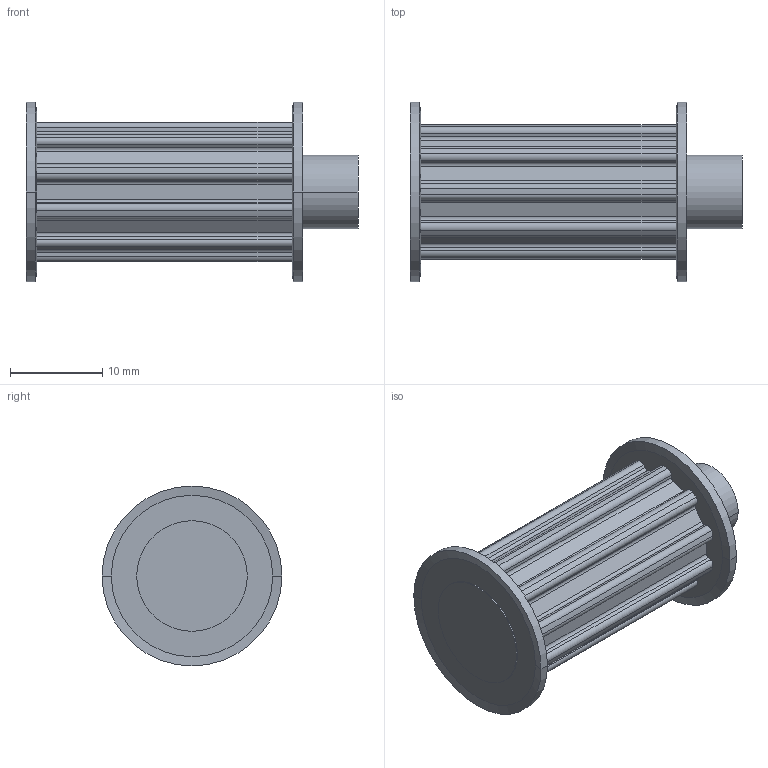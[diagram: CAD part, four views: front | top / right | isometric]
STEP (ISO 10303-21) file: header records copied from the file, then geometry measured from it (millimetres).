
FILE_DESCRIPTION( ( '' ), '1' );
FILE_NAME( 'C:/Users/Stangenbergd/Documents/CAD_Step/1/16241000.stp', '2021-10-19T08:45:11', ( '' ), ( '' ), ' ', ' ', ' ' );
FILE_SCHEMA( ( 'CONFIG_CONTROL_DESIGN' ) );
Length unit declared in the file: millimetre
Products named in the file (1): 1
Bounding box: 36 x 19.5 x 19.5 mm (x, y, z)
Volume: 4992.3 mm3; surface area: 2775.2 mm2
Topology: 1 solids, 1 shells, 105 faces, 286 edges, 188 vertices
Faces by surface type: cylinder 60, plane 37, cone 8
Entity records: 3408 total; most frequent: DIRECTION 626, CARTESIAN_POINT 580, ORIENTED_EDGE 572, EDGE_CURVE 286, AXIS2_PLACEMENT_3D 234, VERTEX_POINT 188, LINE 158, VECTOR 158
